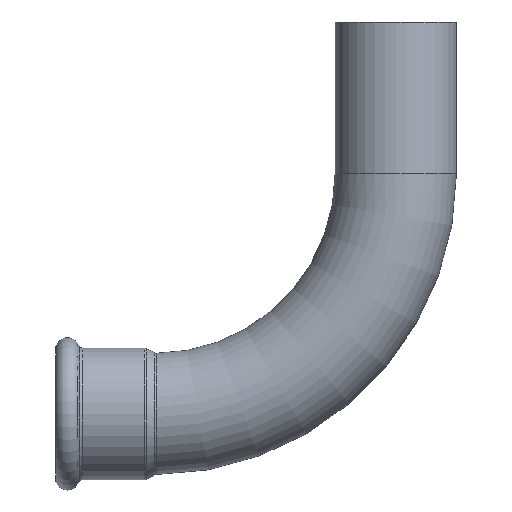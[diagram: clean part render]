
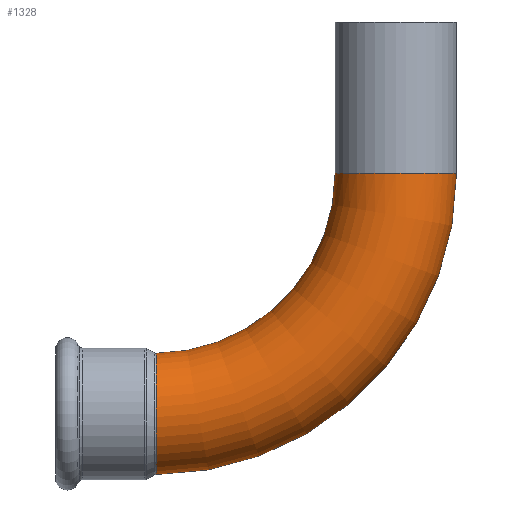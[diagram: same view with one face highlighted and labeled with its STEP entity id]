
A CAD part, top view. The second image highlights one B-rep face of the part: STEP entity #1328.
In plain terms, the highlighted toroidal (fillet/blend) face has major radius 70 mm and minor radius 17.65 mm.
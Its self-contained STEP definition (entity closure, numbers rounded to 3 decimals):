
#1 = AXIS2_PLACEMENT_3D ( 'NONE', #2258, #1622, #2717 ) ;
#9 = CARTESIAN_POINT ( 'NONE',  ( 0.249, -75.262, 16.885 ) ) ;
#46 = CARTESIAN_POINT ( 'NONE',  ( 0.253, -54.058, 7.597 ) ) ;
#48 = VERTEX_POINT ( 'NONE', #2569 ) ;
#176 = ORIENTED_EDGE ( 'NONE', *, *, #1098, .T. ) ;
#208 = CARTESIAN_POINT ( 'NONE',  ( 0.247, -85.455, 8.596 ) ) ;
#209 = EDGE_LOOP ( 'NONE', ( #176, #1034, #2892, #1710, #1823 ) ) ;
#216 = CARTESIAN_POINT ( 'NONE',  ( 0.253, -52.403, 1.402 ) ) ;
#224 = CARTESIAN_POINT ( 'NONE',  ( 0.247, -87.095, 4.426 ) ) ;
#238 = CARTESIAN_POINT ( 'NONE',  ( 0.25, -65.288, 17.046 ) ) ;
#242 = B_SPLINE_CURVE_WITH_KNOTS ( 'NONE', 3,
 ( #689, #2058, #950, #216, #1899 ),
 .UNSPECIFIED., .F., .F.,
 ( 4, 1, 4 ),
 ( 0., 0.001, 0.002 ),
 .UNSPECIFIED. ) ;
#259 = CARTESIAN_POINT ( 'NONE',  ( 0.253, -52.43, 1.682 ) ) ;
#278 = CARTESIAN_POINT ( 'NONE',  ( 0.252, -56.471, 11.349 ) ) ;
#414 = EDGE_CURVE ( 'NONE', #2957, #1309, #863, .T. ) ;
#445 = CARTESIAN_POINT ( 'NONE',  ( 0.25, -63.187, 16.292 ) ) ;
#460 = CARTESIAN_POINT ( 'NONE',  ( 0.249, -73.064, 17.391 ) ) ;
#478 = CARTESIAN_POINT ( 'NONE',  ( 0.253, -53.405, 6.038 ) ) ;
#496 = CARTESIAN_POINT ( 'NONE',  ( 0.249, -70.844, 17.656 ) ) ;
#545 = DIRECTION ( 'NONE',  ( -1., 0., 0. ) ) ;
#650 = CARTESIAN_POINT ( 'NONE',  ( 0.248, -81.157, 13.722 ) ) ;
#666 = CARTESIAN_POINT ( 'NONE',  ( 0.248, -79.789, 14.697 ) ) ;
#679 = FACE_OUTER_BOUND ( 'NONE', #209, .T. ) ;
#680 = CARTESIAN_POINT ( 'NONE',  ( 0.247, -86.78, 5.502 ) ) ;
#689 = CARTESIAN_POINT ( 'NONE',  ( 0.253, -52.349, 0. ) ) ;
#697 = CARTESIAN_POINT ( 'NONE',  ( 0.248, -82., 12.991 ) ) ;
#733 = VERTEX_POINT ( 'NONE', #2105 ) ;
#821 = CARTESIAN_POINT ( 'NONE',  ( 52.35, 0., 0. ) ) ;
#825 = CARTESIAN_POINT ( 'NONE',  ( 0., 0., 0. ) ) ;
#840 = DIRECTION ( 'NONE',  ( 1., 0., 0. ) ) ;
#863 = CIRCLE ( 'NONE', #2517, 52.35 ) ;
#893 = CARTESIAN_POINT ( 'NONE',  ( 0.251, -59.294, 14.077 ) ) ;
#907 = CARTESIAN_POINT ( 'NONE',  ( 0.249, -71.955, 17.55 ) ) ;
#925 = CARTESIAN_POINT ( 'NONE',  ( 0.25, -63.706, 16.499 ) ) ;
#942 = CARTESIAN_POINT ( 'NONE',  ( 0.251, -62.163, 15.825 ) ) ;
#950 = CARTESIAN_POINT ( 'NONE',  ( 0.253, -52.363, 0.842 ) ) ;
#973 = CIRCLE ( 'NONE', #1362, 87.65 ) ;
#986 = CARTESIAN_POINT ( 'NONE',  ( 0., 0., 0. ) ) ;
#1034 = ORIENTED_EDGE ( 'NONE', *, *, #2296, .T. ) ;
#1098 = EDGE_CURVE ( 'NONE', #733, #1791, #2406, .T. ) ;
#1127 = CARTESIAN_POINT ( 'NONE',  ( 0.252, -54.831, 9.094 ) ) ;
#1159 = CARTESIAN_POINT ( 'NONE',  ( 0.247, -87.65, 1.131 ) ) ;
#1195 = CARTESIAN_POINT ( 'NONE',  ( 0.248, -77.839, 15.823 ) ) ;
#1290 = EDGE_CURVE ( 'NONE', #1309, #48, #1459, .T. ) ;
#1309 = VERTEX_POINT ( 'NONE', #821 ) ;
#1328 = ADVANCED_FACE ( 'NONE', ( #679 ), #2893, .T. ) ;
#1360 = CARTESIAN_POINT ( 'NONE',  ( 0.248, -83.529, 11.349 ) ) ;
#1362 = AXIS2_PLACEMENT_3D ( 'NONE', #825, #1999, #840 ) ;
#1378 = CARTESIAN_POINT ( 'NONE',  ( 0.247, -84.55, 10.006 ) ) ;
#1391 = CARTESIAN_POINT ( 'NONE',  ( 0.248, -76.316, 16.519 ) ) ;
#1459 = CIRCLE ( 'NONE', #2331, 17.65 ) ;
#1604 = CARTESIAN_POINT ( 'NONE',  ( 0.248, -83.159, 11.776 ) ) ;
#1622 = DIRECTION ( 'NONE',  ( 0., 0., 1. ) ) ;
#1623 = CARTESIAN_POINT ( 'NONE',  ( 0.251, -60.202, 14.724 ) ) ;
#1640 = CARTESIAN_POINT ( 'NONE',  ( 0.249, -69.728, 17.657 ) ) ;
#1656 = CARTESIAN_POINT ( 'NONE',  ( 0.252, -56.838, 11.773 ) ) ;
#1710 = ORIENTED_EDGE ( 'NONE', *, *, #414, .F. ) ;
#1725 = DIRECTION ( 'NONE',  ( 1., 0., 0. ) ) ;
#1791 = VERTEX_POINT ( 'NONE', #2109 ) ;
#1803 = EDGE_CURVE ( 'NONE', #2957, #733, #242, .T. ) ;
#1823 = ORIENTED_EDGE ( 'NONE', *, *, #1803, .T. ) ;
#1857 = CARTESIAN_POINT ( 'NONE',  ( 0.248, -79.313, 15.004 ) ) ;
#1874 = CARTESIAN_POINT ( 'NONE',  ( 0.25, -68.61, 17.604 ) ) ;
#1899 = CARTESIAN_POINT ( 'NONE',  ( 0.253, -52.43, 1.682 ) ) ;
#1999 = DIRECTION ( 'NONE',  ( 0., 0., 1. ) ) ;
#2053 = CARTESIAN_POINT ( 'NONE',  ( 0.253, -53.822, 7.08 ) ) ;
#2058 = CARTESIAN_POINT ( 'NONE',  ( 0.253, -52.349, 0.281 ) ) ;
#2067 = CARTESIAN_POINT ( 'NONE',  ( 0.253, -53.222, 5.51 ) ) ;
#2086 = CARTESIAN_POINT ( 'NONE',  ( 0.247, -85.967, 7.605 ) ) ;
#2101 = CARTESIAN_POINT ( 'NONE',  ( 0.252, -57.617, 12.591 ) ) ;
#2105 = CARTESIAN_POINT ( 'NONE',  ( 0.253, -52.43, 1.682 ) ) ;
#2109 = CARTESIAN_POINT ( 'NONE',  ( 0.247, -87.65, 0. ) ) ;
#2118 = CARTESIAN_POINT ( 'NONE',  ( 0.248, -78.337, 15.567 ) ) ;
#2212 = DIRECTION ( 'NONE',  ( 0., 1., 0. ) ) ;
#2258 = CARTESIAN_POINT ( 'NONE',  ( 0., 0., 0. ) ) ;
#2289 = CARTESIAN_POINT ( 'NONE',  ( 0.253, -52.751, 3.905 ) ) ;
#2296 = EDGE_CURVE ( 'NONE', #1791, #48, #973, .T. ) ;
#2303 = CARTESIAN_POINT ( 'NONE',  ( 0.247, -86.594, 6.038 ) ) ;
#2316 = CARTESIAN_POINT ( 'NONE',  ( 0.247, -87.542, 2.243 ) ) ;
#2331 = AXIS2_PLACEMENT_3D ( 'NONE', #2843, #2212, #545 ) ;
#2349 = CARTESIAN_POINT ( 'NONE',  ( 0.25, -68.047, 17.551 ) ) ;
#2369 = CARTESIAN_POINT ( 'NONE',  ( 0.253, -52.349, 0. ) ) ;
#2406 = B_SPLINE_CURVE_WITH_KNOTS ( 'NONE', 3,
 ( #259, #2989, #2289, #2067, #478, #2053, #46, #1127, #2793, #278, #1656, #2101, #2733, #893, #1623, #2779, #942, #445, #925, #238, #2557, #2349, #1874, #1640, #496, #907, #460, #2746, #9, #1391, #1195, #2118, #1857, #666, #650, #697, #1604, #1360, #2524, #1378, #208, #2086, #2303, #680, #224, #2539, #2316, #1159, #2825 ),
 .UNSPECIFIED., .F., .F.,
 ( 4, 2, 2, 2, 2, 2, 2, 2, 2, 2, 2, 2, 1, 2, 2, 2, 2, 2, 2, 2, 2, 2, 2, 2, 4 ),
 ( 0.002, 0.005, 0.007, 0.008, 0.012, 0.014, 0.015, 0.019, 0.02, 0.022, 0.025, 0.027, 0.029, 0.03, 0.032, 0.036, 0.037, 0.039, 0.042, 0.044, 0.046, 0.049, 0.051, 0.053, 0.056 ),
 .UNSPECIFIED. ) ;
#2517 = AXIS2_PLACEMENT_3D ( 'NONE', #986, #2870, #1725 ) ;
#2524 = CARTESIAN_POINT ( 'NONE',  ( 0.248, -84.226, 10.462 ) ) ;
#2539 = CARTESIAN_POINT ( 'NONE',  ( 0.247, -87.226, 3.884 ) ) ;
#2557 = CARTESIAN_POINT ( 'NONE',  ( 0.25, -66.373, 17.31 ) ) ;
#2569 = CARTESIAN_POINT ( 'NONE',  ( 87.65, 0., 0. ) ) ;
#2717 = DIRECTION ( 'NONE',  ( 1., 0., 0. ) ) ;
#2733 = CARTESIAN_POINT ( 'NONE',  ( 0.252, -58.025, 12.979 ) ) ;
#2746 = CARTESIAN_POINT ( 'NONE',  ( 0.249, -73.621, 17.284 ) ) ;
#2779 = CARTESIAN_POINT ( 'NONE',  ( 0.251, -61.659, 15.565 ) ) ;
#2793 = CARTESIAN_POINT ( 'NONE',  ( 0.252, -55.435, 10.032 ) ) ;
#2825 = CARTESIAN_POINT ( 'NONE',  ( 0.247, -87.65, 0. ) ) ;
#2843 = CARTESIAN_POINT ( 'NONE',  ( 70., 0., 0. ) ) ;
#2870 = DIRECTION ( 'NONE',  ( 0., 0., 1. ) ) ;
#2892 = ORIENTED_EDGE ( 'NONE', *, *, #1290, .F. ) ;
#2893 = TOROIDAL_SURFACE ( 'NONE', #1, 70., 17.65 ) ;
#2957 = VERTEX_POINT ( 'NONE', #2369 ) ;
#2989 = CARTESIAN_POINT ( 'NONE',  ( 0.253, -52.538, 2.808 ) ) ;
